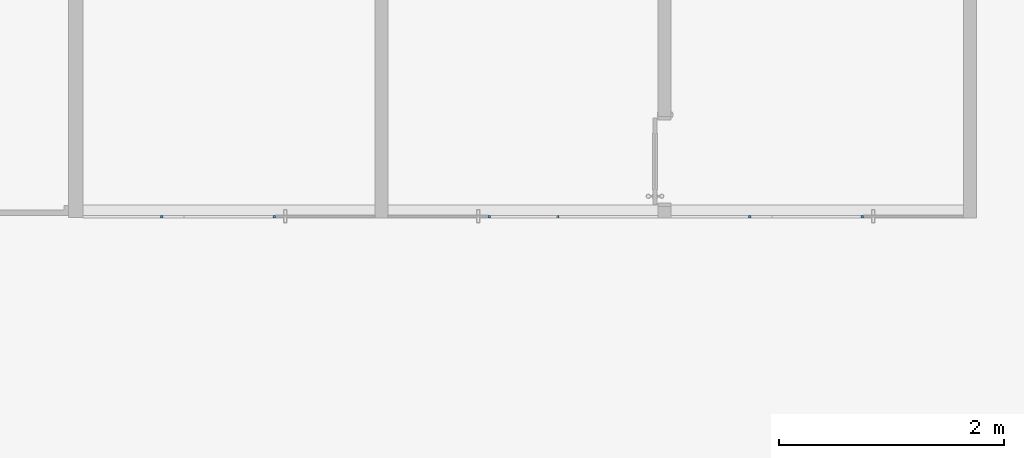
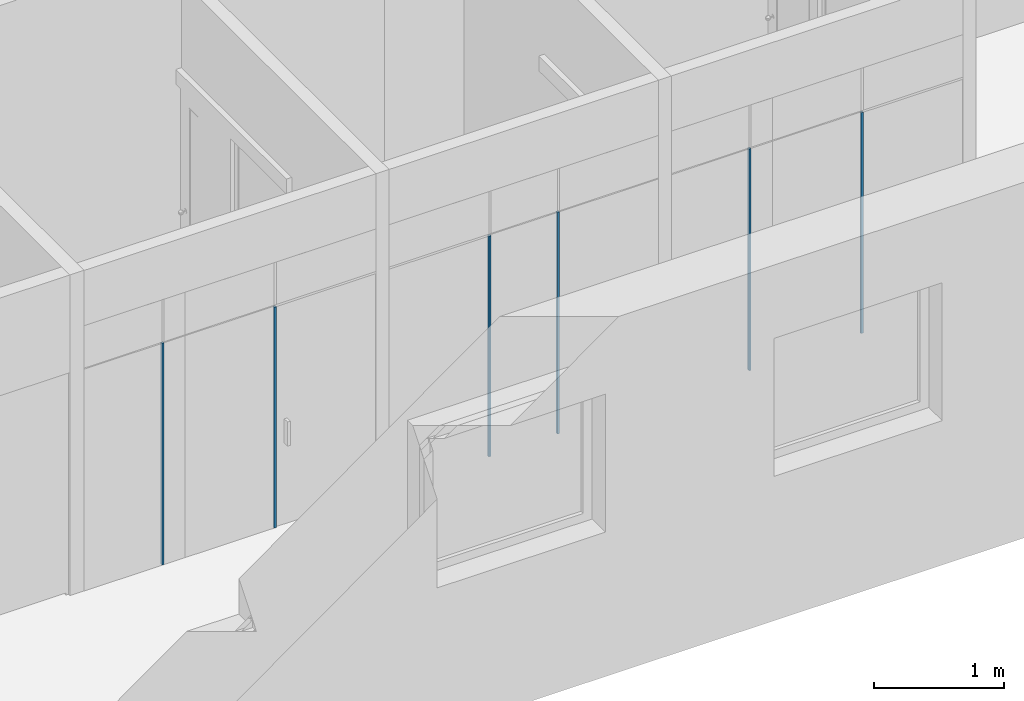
# One storey, part 2 of 49: 6 members, 3 elements without a shape of their own.
"""IFC2X3 building model written with IfcOpenShell, lengths in millimetres."""

from ifc_helpers import new_model, entity, si_unit, converted_unit, derived_unit, direction, frame, origin, origin_2d_with_axis, place, context, subcontext, project, spatial, rectangle, extrude, source, transform, mapped, material, type_object, type_shapes, element, aggregate, save


model = new_model("IFC2X3")

# Units and contexts
model_context = context("Model", 3, precision=0.01, world=origin(), true_north=direction((6.12303176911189e-17, 1.0)))
body_context = subcontext(model_context, "Body", "Model", "MODEL_VIEW")
ifc_project = project(units=[si_unit("LENGTHUNIT", "METRE", prefix="MILLI"), si_unit("AREAUNIT", "SQUARE_METRE"), si_unit("VOLUMEUNIT", "CUBIC_METRE"), converted_unit("PLANEANGLEUNIT", "DEGREE", entity("IfcRatioMeasure", 0.0174532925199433), si_unit("PLANEANGLEUNIT", "RADIAN"), dimensions=[0, 0, 0, 0, 0, 0, 0]), si_unit("MASSUNIT", "GRAM", prefix="KILO"), derived_unit("MASSDENSITYUNIT", [(si_unit("MASSUNIT", "GRAM", prefix="KILO"), 1), (si_unit("LENGTHUNIT", "METRE"), -3)]), si_unit("TIMEUNIT", "SECOND"), si_unit("FREQUENCYUNIT", "HERTZ"), si_unit("THERMODYNAMICTEMPERATUREUNIT", "DEGREE_CELSIUS"), derived_unit("THERMALTRANSMITTANCEUNIT", [(si_unit("MASSUNIT", "GRAM", prefix="KILO"), 1), (si_unit("THERMODYNAMICTEMPERATUREUNIT", "KELVIN"), -1), (si_unit("TIMEUNIT", "SECOND"), -3)]), derived_unit("VOLUMETRICFLOWRATEUNIT", [(si_unit("LENGTHUNIT", "METRE"), 3), (si_unit("TIMEUNIT", "SECOND"), -1)]), si_unit("ELECTRICCURRENTUNIT", "AMPERE"), si_unit("ELECTRICVOLTAGEUNIT", "VOLT"), si_unit("POWERUNIT", "WATT"), si_unit("FORCEUNIT", "NEWTON", prefix="KILO"), si_unit("ILLUMINANCEUNIT", "LUX"), si_unit("LUMINOUSFLUXUNIT", "LUMEN"), si_unit("LUMINOUSINTENSITYUNIT", "CANDELA"), derived_unit("USERDEFINED", [(si_unit("MASSUNIT", "GRAM", prefix="KILO"), -1), (si_unit("LENGTHUNIT", "METRE"), -2), (si_unit("TIMEUNIT", "SECOND"), 3), (si_unit("LUMINOUSFLUXUNIT", "LUMEN"), 1)]), derived_unit("LINEARVELOCITYUNIT", [(si_unit("LENGTHUNIT", "METRE"), 1), (si_unit("TIMEUNIT", "SECOND"), -1)]), si_unit("PRESSUREUNIT", "PASCAL"), derived_unit("USERDEFINED", [(si_unit("LENGTHUNIT", "METRE"), -2), (si_unit("MASSUNIT", "GRAM", prefix="KILO"), 1), (si_unit("TIMEUNIT", "SECOND"), -2)])], contexts=[model_context])

# Site, building, storey
site_placement = place(None, frame((-151.875543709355, 2715.0, 0.0)))
site = spatial("IfcSite", under=ifc_project, at=site_placement, Name="Surface", CompositionType="ELEMENT")
building_placement = place(site_placement, origin())
building = spatial("IfcBuilding", under=site, at=building_placement, CompositionType="ELEMENT")
storey_placement = place(building_placement, origin())
storey = spatial("IfcBuildingStorey", under=building, at=storey_placement, Name="1 korrus", CompositionType="ELEMENT", Elevation=3.0969999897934e-10)

# Curtain wall, member
curtain_wall_type_1 = type_object("IfcCurtainWallType", Name="Curtain Wall:Klaassein KLS-01", PredefinedType="NOTDEFINED")
curtain_wall_1_placement = place(storey_placement, origin())
curtain_wall_1 = element("IfcCurtainWall", 1, at=curtain_wall_1_placement, inside=storey, type_object=curtain_wall_type_1, Name="Curtain Wall:Klaassein KLS-01", ObjectType="Curtain Wall:Klaassein KLS-01")
ifc_material = material(Name="__Uks_hele tamm")
member_type_1 = type_object("IfcMemberType", Name="20 x 20mm", PredefinedType="MEMBER")
shared_shape_1 = source(origin(), body_context, "Body", "SweptSolid", [
    extrude(rectangle(XDim=20.0, YDim=20.0, at=origin_2d_with_axis()), frame((0.0, 0.0, -2090.0), z_axis=(0.0, 0.0, 1.0), x_axis=(0.0, -1.0, 0.0)), (0.0, 0.0, 1.0), 2090.0),
])
type_shapes(member_type_1, [shared_shape_1])
member_1_placement = place(storey_placement, frame((17755.2710850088, 3017.49999999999, 0.0), z_axis=(0.0, 0.0, -1.0), x_axis=(1.0, 0.0, 0.0)))
member_1 = element("IfcMember", 2, at=member_1_placement, type_object=member_type_1, material=ifc_material, Name="Rectangular Mullion:20 x 20mm", ObjectType="20 x 20mm", context=body_context, shape_type="MappedRepresentation", body=[
    mapped(shared_shape_1, transform((0.0, 0.0, 0.0), scale=1.0)),
])

curtain_wall_2_placement = place(storey_placement, origin())
curtain_wall_2 = element("IfcCurtainWall", 3, at=curtain_wall_2_placement, inside=storey, type_object=curtain_wall_type_1, Name="Curtain Wall:Klaassein KLS-01", ObjectType="Curtain Wall:Klaassein KLS-01")
member_2_placement = place(storey_placement, frame((12524.2710850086, 3017.50000000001, 0.0), z_axis=(0.0, 0.0, -1.0), x_axis=(1.0, 0.0, 0.0)))
member_2 = element("IfcMember", 4, at=member_2_placement, type_object=member_type_1, material=ifc_material, Name="Rectangular Mullion:20 x 20mm", ObjectType="20 x 20mm", context=body_context, shape_type="MappedRepresentation", body=[
    mapped(shared_shape_1, transform((0.0, 0.0, 0.0), scale=1.0)),
])

# Member
member_type_2 = type_object("IfcMemberType", Name="20 x 20mm", PredefinedType="MEMBER")
shared_shape_2 = source(origin(), body_context, "Body", "SweptSolid", [
    extrude(rectangle(XDim=20.0, YDim=20.0, at=origin_2d_with_axis()), frame((0.0, 0.0, -2080.0), z_axis=(0.0, 0.0, 1.0), x_axis=(0.0, -1.0, 0.0)), (0.0, 0.0, 1.0), 2080.0),
])
type_shapes(member_type_2, [shared_shape_2])
member_3_placement = place(storey_placement, frame((18755.2710850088, 3017.49999999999, 0.0), z_axis=(0.0, 0.0, -1.0), x_axis=(1.0, 0.0, 0.0)))
member_3 = element("IfcMember", 5, at=member_3_placement, type_object=member_type_2, material=ifc_material, Name="Rectangular Mullion:20 x 20mm", ObjectType="20 x 20mm", context=body_context, shape_type="MappedRepresentation", body=[
    mapped(shared_shape_2, transform((0.0, 0.0, 0.0), scale=1.0)),
])

aggregate(curtain_wall_1, [member_1, member_3])

member_4_placement = place(storey_placement, frame((13524.2710850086, 3017.50000000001, 0.0), z_axis=(0.0, 0.0, -1.0), x_axis=(1.0, 0.0, 0.0)))
member_4 = element("IfcMember", 6, at=member_4_placement, type_object=member_type_2, material=ifc_material, Name="Rectangular Mullion:20 x 20mm", ObjectType="20 x 20mm", context=body_context, shape_type="MappedRepresentation", body=[
    mapped(shared_shape_2, transform((0.0, 0.0, 0.0), scale=1.0)),
])

aggregate(curtain_wall_2, [member_2, member_4])

# Curtain wall, members
curtain_wall_type_2 = type_object("IfcCurtainWallType", Name="Curtain Wall:Klaassein KLS-02", PredefinedType="NOTDEFINED")
curtain_wall_3_placement = place(storey_placement, origin())
curtain_wall_3 = element("IfcCurtainWall", 7, at=curtain_wall_3_placement, inside=storey, type_object=curtain_wall_type_2, Name="Curtain Wall:Klaassein KLS-02", ObjectType="Curtain Wall:Klaassein KLS-02")
member_type_3 = type_object("IfcMemberType", Name="20 x 20mm", PredefinedType="MEMBER")
shared_shape_3 = source(origin(), body_context, "Body", "SweptSolid", [
    extrude(rectangle(XDim=20.0, YDim=20.0, at=origin_2d_with_axis()), frame((0.0, 0.0, -2090.0), z_axis=(0.0, 0.0, 1.0), x_axis=(0.0, -1.0, 0.0)), (0.0, 0.0, 1.0), 2090.0),
])
type_shapes(member_type_3, [shared_shape_3])
member_5_placement = place(storey_placement, frame((16048.2710847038, 3017.50000000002, 0.0), z_axis=(0.0, 0.0, -1.0), x_axis=(-1.0, 0.0, 0.0)))
member_5 = element("IfcMember", 8, at=member_5_placement, type_object=member_type_3, material=ifc_material, Name="Rectangular Mullion:20 x 20mm", ObjectType="20 x 20mm", context=body_context, shape_type="MappedRepresentation", body=[
    mapped(shared_shape_3, transform((0.0, 0.0, 0.0), scale=1.0)),
])
member_type_4 = type_object("IfcMemberType", Name="20 x 20mm", PredefinedType="MEMBER")
shared_shape_4 = source(origin(), body_context, "Body", "SweptSolid", [
    extrude(rectangle(XDim=20.0, YDim=20.0, at=origin_2d_with_axis()), frame((0.0, 0.0, -2080.0), z_axis=(0.0, 0.0, 1.0), x_axis=(0.0, -1.0, 0.0)), (0.0, 0.0, 1.0), 2080.0),
])
type_shapes(member_type_4, [shared_shape_4])
member_6_placement = place(storey_placement, frame((15438.2710847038, 3017.50000000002, 0.0), z_axis=(0.0, 0.0, -1.0), x_axis=(-1.0, 0.0, 0.0)))
member_6 = element("IfcMember", 9, at=member_6_placement, type_object=member_type_4, material=ifc_material, Name="Rectangular Mullion:20 x 20mm", ObjectType="20 x 20mm", context=body_context, shape_type="MappedRepresentation", body=[
    mapped(shared_shape_4, transform((0.0, 0.0, 0.0), scale=1.0)),
])
aggregate(curtain_wall_3, [member_5, member_6])

save(model, "model.ifc")
